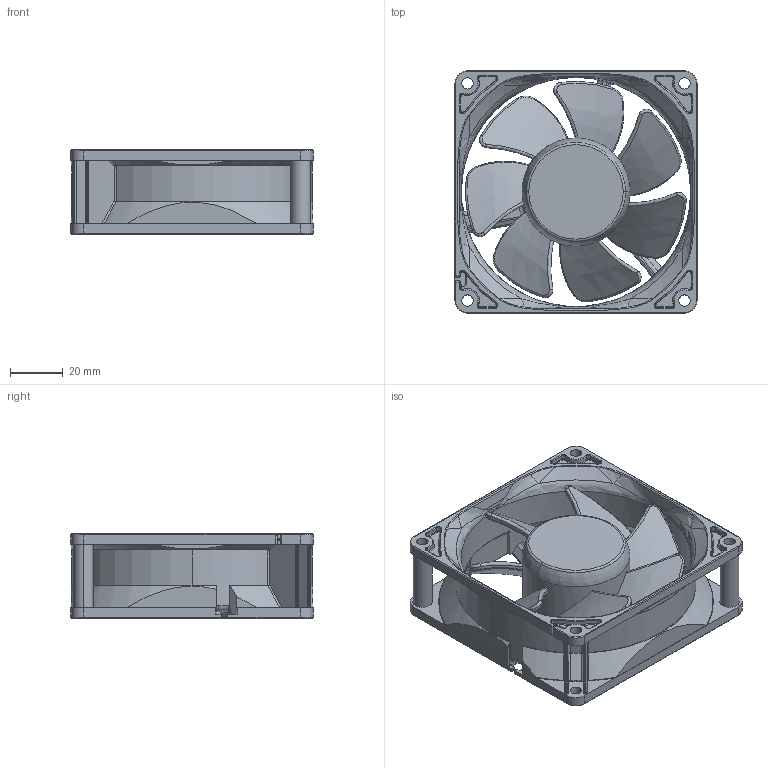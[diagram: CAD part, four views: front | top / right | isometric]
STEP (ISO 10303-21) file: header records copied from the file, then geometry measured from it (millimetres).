
FILE_DESCRIPTION (( 'STEP AP214' ), '1' );
FILE_NAME ('9232G_RIBBED.STEP', '2017-02-07T11:23:56', ( '' ), ( '' ), 'SwSTEP 2.0', 'SolidWorks 2016', '' );
FILE_SCHEMA (( 'AUTOMOTIVE_DESIGN' ));
Length unit declared in the file: millimetre
Products named in the file (1): 9232G_RIBBED
Bounding box: 92 x 92 x 32 mm (x, y, z)
Volume: 82934.6 mm3; surface area: 47351.4 mm2
Topology: 1 solids, 1 shells, 806 faces, 2036 edges, 1201 vertices
Faces by surface type: bspline 312, cylinder 200, torus 130, plane 107, cone 30, sphere 27
Entity records: 34151 total; most frequent: CARTESIAN_POINT 17440, ORIENTED_EDGE 3996, DIRECTION 2852, EDGE_CURVE 1998, AXIS2_PLACEMENT_3D 1221, VERTEX_POINT 1201, EDGE_LOOP 835, B_SPLINE_CURVE_WITH_KNOTS 834
